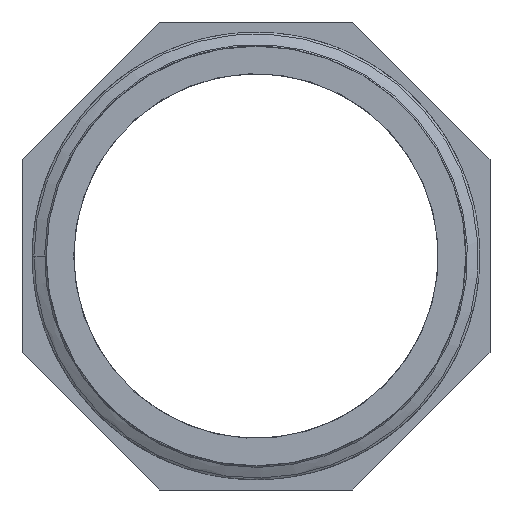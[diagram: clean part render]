
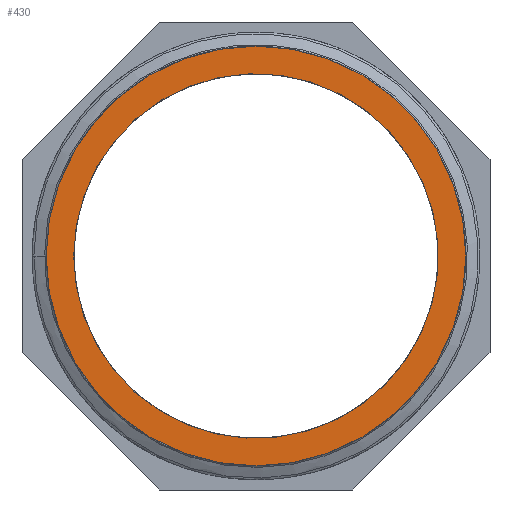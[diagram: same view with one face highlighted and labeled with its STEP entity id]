
A CAD part, front view. The second image highlights one B-rep face of the part: STEP entity #430.
In plain terms, the highlighted planar face has unit normal (0, -1, 0).
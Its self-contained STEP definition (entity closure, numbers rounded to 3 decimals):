
#17=FACE_BOUND('',#93,.T.);
#32=PLANE('',#455);
#37=CIRCLE('',#439,22.423);
#41=CIRCLE('',#454,19.476);
#65=FACE_OUTER_BOUND('',#92,.T.);
#92=EDGE_LOOP('',(#382));
#93=EDGE_LOOP('',(#383));
#186=VERTEX_POINT('',#2890);
#216=VERTEX_POINT('',#7736);
#234=EDGE_CURVE('',#186,#186,#37,.T.);
#276=EDGE_CURVE('',#216,#216,#41,.T.);
#382=ORIENTED_EDGE('',*,*,#234,.T.);
#383=ORIENTED_EDGE('',*,*,#276,.T.);
#430=ADVANCED_FACE('',(#65,#17),#32,.F.);
#439=AXIS2_PLACEMENT_3D('',#4266,#472,#473);
#454=AXIS2_PLACEMENT_3D('',#7737,#529,#530);
#455=AXIS2_PLACEMENT_3D('',#7738,#531,#532);
#472=DIRECTION('center_axis',(0.,-1.,0.));
#473=DIRECTION('ref_axis',(1.,0.,0.));
#529=DIRECTION('center_axis',(0.,1.,0.));
#530=DIRECTION('ref_axis',(1.,0.,0.));
#531=DIRECTION('center_axis',(0.,1.,0.));
#532=DIRECTION('ref_axis',(0.,0.,1.));
#2890=CARTESIAN_POINT('',(-22.423,0.,0.));
#4266=CARTESIAN_POINT('Origin',(0.,0.,0.));
#7736=CARTESIAN_POINT('',(-19.476,0.,0.));
#7737=CARTESIAN_POINT('Origin',(0.,0.,0.));
#7738=CARTESIAN_POINT('Origin',(0.,0.,0.));
